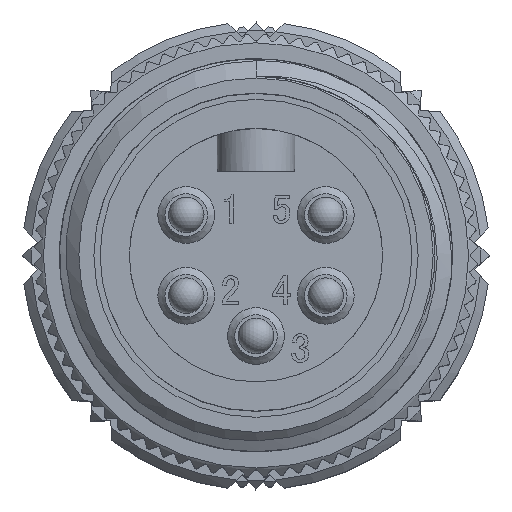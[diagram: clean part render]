
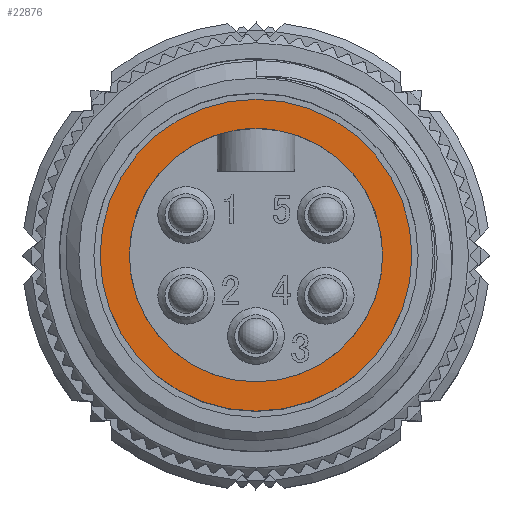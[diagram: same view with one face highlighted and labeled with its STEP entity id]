
A CAD part, top view. The second image highlights one B-rep face of the part: STEP entity #22876.
In plain terms, the highlighted planar face has unit normal (0, 0, 1).
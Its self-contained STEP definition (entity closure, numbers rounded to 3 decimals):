
#343 = CIRCLE ( 'NONE', #25202, 7.15 ) ;
#3230 = CARTESIAN_POINT ( 'NONE',  ( 0., 0., -1.5 ) ) ;
#3545 = EDGE_CURVE ( 'NONE', #24596, #24596, #343, .T. ) ;
#6492 = DIRECTION ( 'NONE',  ( 0., 0., 1. ) ) ;
#7064 = CARTESIAN_POINT ( 'NONE',  ( 0., 0., -1.5 ) ) ;
#10031 = CARTESIAN_POINT ( 'NONE',  ( 0., 7.15, -1.5 ) ) ;
#13397 = DIRECTION ( 'NONE',  ( 1., 0., 0. ) ) ;
#13877 = DIRECTION ( 'NONE',  ( -1., 0., 0. ) ) ;
#14790 = CARTESIAN_POINT ( 'NONE',  ( 8.8, 0., -1.5 ) ) ;
#16006 = AXIS2_PLACEMENT_3D ( 'NONE', #3230, #6492, #40508 ) ;
#16807 = EDGE_LOOP ( 'NONE', ( #33656 ) ) ;
#18183 = CIRCLE ( 'NONE', #16006, 8.8 ) ;
#19301 = ORIENTED_EDGE ( 'NONE', *, *, #36818, .T. ) ;
#19855 = AXIS2_PLACEMENT_3D ( 'NONE', #35387, #32607, #13877 ) ;
#21846 = EDGE_LOOP ( 'NONE', ( #19301 ) ) ;
#22876 = ADVANCED_FACE ( 'NONE', ( #31246, #40627 ), #38681, .F. ) ;
#24596 = VERTEX_POINT ( 'NONE', #10031 ) ;
#25202 = AXIS2_PLACEMENT_3D ( 'NONE', #7064, #32632, #13397 ) ;
#31246 = FACE_BOUND ( 'NONE', #16807, .T. ) ;
#32594 = VERTEX_POINT ( 'NONE', #14790 ) ;
#32607 = DIRECTION ( 'NONE',  ( 0., 0., -1. ) ) ;
#32632 = DIRECTION ( 'NONE',  ( 0., 0., 1. ) ) ;
#33656 = ORIENTED_EDGE ( 'NONE', *, *, #3545, .F. ) ;
#35387 = CARTESIAN_POINT ( 'NONE',  ( 0., 8.8, -1.5 ) ) ;
#36818 = EDGE_CURVE ( 'NONE', #32594, #32594, #18183, .T. ) ;
#38681 = PLANE ( 'NONE',  #19855 ) ;
#40508 = DIRECTION ( 'NONE',  ( 1., 0., 0. ) ) ;
#40627 = FACE_OUTER_BOUND ( 'NONE', #21846, .T. ) ;
